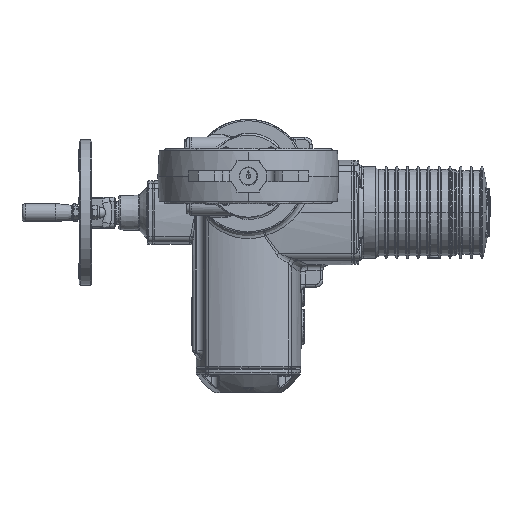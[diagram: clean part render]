
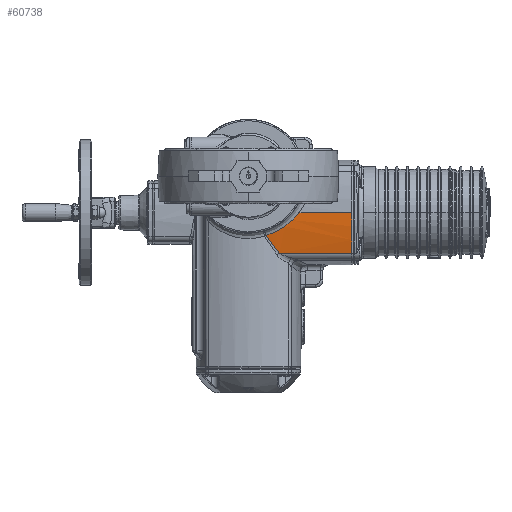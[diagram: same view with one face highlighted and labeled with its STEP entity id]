
A CAD part, front view. The second image highlights one B-rep face of the part: STEP entity #60738.
In plain terms, the highlighted cylindrical face has radius 190 mm (diameter 380 mm), a partial arc.
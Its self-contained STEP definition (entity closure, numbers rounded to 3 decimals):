
#4036 = CARTESIAN_POINT ( 'NONE',  ( 46.858, 276.243, -49.696 ) ) ;
#5355 = CARTESIAN_POINT ( 'NONE',  ( 40.277, 276.588, -54.944 ) ) ;
#9565 = DIRECTION ( 'NONE',  ( 1., 0., 0. ) ) ;
#18978 = CARTESIAN_POINT ( 'NONE',  ( 21.994, 277.536, -64.112 ) ) ;
#20303 = CARTESIAN_POINT ( 'NONE',  ( 36.367, 276.808, -57.527 ) ) ;
#20971 = CARTESIAN_POINT ( 'NONE',  ( 48.545, 276.171, -48.076 ) ) ;
#22716 = VERTEX_POINT ( 'NONE', #112873 ) ;
#23899 = EDGE_CURVE ( 'NONE', #47033, #22716, #135428, .T. ) ;
#24621 = B_SPLINE_CURVE_WITH_KNOTS ( 'NONE', 3,
 ( #136025, #119797, #104809, #182120 ),
 .UNSPECIFIED., .F., .F.,
 ( 4, 4 ),
 ( 0., 1. ),
 .UNSPECIFIED. ) ;
#34581 = CARTESIAN_POINT ( 'NONE',  ( 45.458, 276.311, -50.933 ) ) ;
#34736 = FACE_OUTER_BOUND ( 'NONE', #164485, .T. ) ;
#41513 = CARTESIAN_POINT ( 'NONE',  ( 18.683, 466., -40. ) ) ;
#42932 = CARTESIAN_POINT ( 'NONE',  ( 74.01, 281.354, -84.785 ) ) ;
#45619 = DIRECTION ( 'NONE',  ( 1., 0., 0. ) ) ;
#47033 = VERTEX_POINT ( 'NONE', #58080 ) ;
#48890 = CARTESIAN_POINT ( 'NONE',  ( 54.496, 276., -41.498 ) ) ;
#49551 = CARTESIAN_POINT ( 'NONE',  ( 23.441, 277.474, -63.621 ) ) ;
#50178 = ORIENTED_EDGE ( 'NONE', *, *, #128208, .T. ) ;
#51406 = CARTESIAN_POINT ( 'NONE',  ( 34.263, 281.354, -84.785 ) ) ;
#52218 = CARTESIAN_POINT ( 'NONE',  ( 28.039, 277.257, -61.838 ) ) ;
#52948 = VECTOR ( 'NONE', #9565, 1000. ) ;
#53001 = VERTEX_POINT ( 'NONE', #187428 ) ;
#58080 = CARTESIAN_POINT ( 'NONE',  ( 55.608, 276., -40. ) ) ;
#60738 = ADVANCED_FACE ( 'NONE', ( #34736 ), #138961, .T. ) ;
#63124 = CIRCLE ( 'NONE', #128414, 190. ) ;
#65833 = CARTESIAN_POINT ( 'NONE',  ( 22.663, 277.508, -63.889 ) ) ;
#66636 = CARTESIAN_POINT ( 'NONE',  ( 19.183, 277.648, -64.97 ) ) ;
#73490 = DIRECTION ( 'NONE',  ( -1., 0., 0. ) ) ;
#77365 = CARTESIAN_POINT ( 'NONE',  ( 55.608, 276., -40. ) ) ;
#80691 = VERTEX_POINT ( 'NONE', #66636 ) ;
#80703 = CARTESIAN_POINT ( 'NONE',  ( 31.436, 277.079, -60.229 ) ) ;
#81364 = CARTESIAN_POINT ( 'NONE',  ( 42.544, 276.464, -53.276 ) ) ;
#82915 = DIRECTION ( 'NONE',  ( -1., 0., 0. ) ) ;
#87737 = EDGE_CURVE ( 'NONE', #53001, #22716, #63124, .T. ) ;
#96307 = CARTESIAN_POINT ( 'NONE',  ( 20.122, 277.613, -64.704 ) ) ;
#96976 = CARTESIAN_POINT ( 'NONE',  ( 49.543, 276.132, -47.083 ) ) ;
#97626 = CARTESIAN_POINT ( 'NONE',  ( 37.954, 276.718, -56.533 ) ) ;
#97720 = EDGE_CURVE ( 'NONE', #80691, #186158, #24621, .T. ) ;
#98983 = CARTESIAN_POINT ( 'NONE',  ( 33.926, 276.944, -58.919 ) ) ;
#104809 = CARTESIAN_POINT ( 'NONE',  ( 29.774, 279.913, -78.845 ) ) ;
#109322 = ORIENTED_EDGE ( 'NONE', *, *, #23899, .F. ) ;
#111961 = CARTESIAN_POINT ( 'NONE',  ( 26.306, 277.343, -62.563 ) ) ;
#112625 = CARTESIAN_POINT ( 'NONE',  ( 22.106, 277.531, -64.075 ) ) ;
#112873 = CARTESIAN_POINT ( 'NONE',  ( 113.757, 276., -40. ) ) ;
#113954 = CARTESIAN_POINT ( 'NONE',  ( 48.881, 276.158, -47.746 ) ) ;
#114610 = CARTESIAN_POINT ( 'NONE',  ( 21.936, 277.539, -64.131 ) ) ;
#118242 = DIRECTION ( 'NONE',  ( 0., -1., 0. ) ) ;
#119123 = AXIS2_PLACEMENT_3D ( 'NONE', #41513, #45619, #118242 ) ;
#119797 = CARTESIAN_POINT ( 'NONE',  ( 24.748, 278.612, -72.24 ) ) ;
#125365 = ORIENTED_EDGE ( 'NONE', *, *, #97720, .T. ) ;
#128208 = EDGE_CURVE ( 'NONE', #47033, #80691, #176634, .T. ) ;
#128414 = AXIS2_PLACEMENT_3D ( 'NONE', #190778, #82915, #175867 ) ;
#129504 = CARTESIAN_POINT ( 'NONE',  ( 24.104, 277.444, -63.382 ) ) ;
#130171 = CARTESIAN_POINT ( 'NONE',  ( 43.282, 276.424, -52.702 ) ) ;
#131151 = ORIENTED_EDGE ( 'NONE', *, *, #154149, .F. ) ;
#131835 = ORIENTED_EDGE ( 'NONE', *, *, #87737, .T. ) ;
#135428 = LINE ( 'NONE', #149877, #52948 ) ;
#136025 = CARTESIAN_POINT ( 'NONE',  ( 19.183, 277.648, -64.97 ) ) ;
#138961 = CYLINDRICAL_SURFACE ( 'NONE', #119123, 190. ) ;
#142432 = CARTESIAN_POINT ( 'NONE',  ( 33.103, 276.989, -59.367 ) ) ;
#143101 = CARTESIAN_POINT ( 'NONE',  ( 22.273, 277.524, -64.019 ) ) ;
#145087 = CARTESIAN_POINT ( 'NONE',  ( 50.841, 276.085, -45.736 ) ) ;
#149877 = CARTESIAN_POINT ( 'NONE',  ( 18.683, 276., -40. ) ) ;
#150206 = VECTOR ( 'NONE', #73490, 1000. ) ;
#154149 = EDGE_CURVE ( 'NONE', #53001, #186158, #164824, .T. ) ;
#157309 = CARTESIAN_POINT ( 'NONE',  ( 53.323, 276.018, -42.948 ) ) ;
#158636 = CARTESIAN_POINT ( 'NONE',  ( 30.592, 277.125, -60.645 ) ) ;
#164485 = EDGE_LOOP ( 'NONE', ( #109322, #50178, #125365, #131151, #131835 ) ) ;
#164824 = LINE ( 'NONE', #42932, #150206 ) ;
#173004 = CARTESIAN_POINT ( 'NONE',  ( 51.473, 276.066, -45.048 ) ) ;
#174338 = CARTESIAN_POINT ( 'NONE',  ( 49.871, 276.12, -46.749 ) ) ;
#175638 = CARTESIAN_POINT ( 'NONE',  ( 21.021, 277.577, -64.43 ) ) ;
#175867 = DIRECTION ( 'NONE',  ( 0., 1., 0. ) ) ;
#176634 = B_SPLINE_CURVE_WITH_KNOTS ( 'NONE', 3,
 ( #77365, #48890, #157309, #173004, #145087, #174338, #96976, #113954, #20971, #4036, #34581, #130171, #81364, #190558, #5355, #97626, #20303, #98983, #142432, #80703, #158636, #52218, #111961, #129504, #49551, #65833, #143101, #112625, #18978, #114610, #175638, #96307, #189214 ),
 .UNSPECIFIED., .F., .F.,
 ( 4, 2, 2, 2, 2, 2, 2, 2, 2, 2, 2, 2, 1, 1, 1, 2, 2, 4 ),
 ( 0.519, 0.579, 0.609, 0.624, 0.639, 0.699, 0.729, 0.759, 0.819, 0.85, 0.88, 0.94, 0.955, 0.962, 0.966, 0.968, 0.97, 1. ),
 .UNSPECIFIED. ) ;
#182120 = CARTESIAN_POINT ( 'NONE',  ( 34.263, 281.354, -84.785 ) ) ;
#186158 = VERTEX_POINT ( 'NONE', #51406 ) ;
#187428 = CARTESIAN_POINT ( 'NONE',  ( 113.757, 281.354, -84.785 ) ) ;
#189214 = CARTESIAN_POINT ( 'NONE',  ( 19.183, 277.648, -64.97 ) ) ;
#190558 = CARTESIAN_POINT ( 'NONE',  ( 41.042, 276.545, -54.397 ) ) ;
#190778 = CARTESIAN_POINT ( 'NONE',  ( 113.757, 466., -40. ) ) ;
